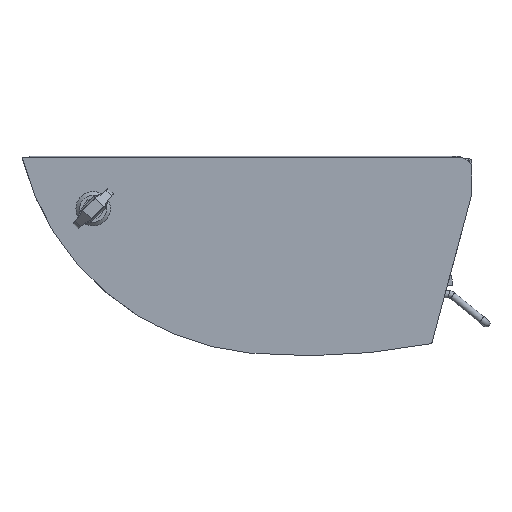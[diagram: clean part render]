
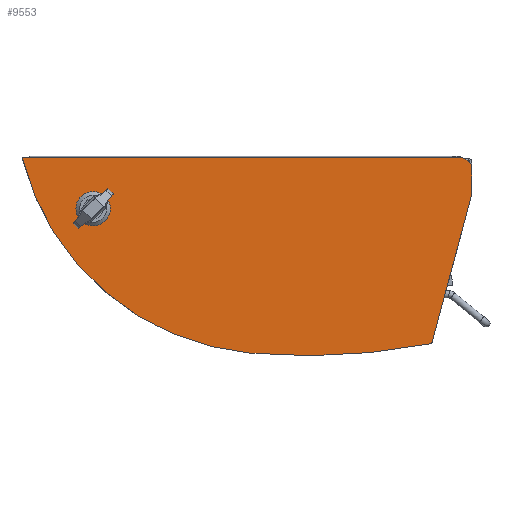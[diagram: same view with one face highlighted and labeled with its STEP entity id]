
A CAD part, left-side view. The second image highlights one B-rep face of the part: STEP entity #9553.
In plain terms, the highlighted planar face has unit normal (-1, 0, 0) as drawn and (0, 0, 1) by its records, which use the part's own axes.
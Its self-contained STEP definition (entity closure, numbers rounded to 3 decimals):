
#9030=CARTESIAN_POINT('',(-69.795,-7.509,1.5));
#9031=VERTEX_POINT('',#9030);
#9038=CARTESIAN_POINT('',(89.673,179.046,1.5));
#9039=VERTEX_POINT('',#9038);
#9040=CARTESIAN_POINT('',(140.881,-26.161,1.5));
#9041=DIRECTION('',(0.0,0.0,1.0));
#9042=DIRECTION('',(-0.242,0.97,0.0));
#9043=AXIS2_PLACEMENT_3D('',#9040,#9041,#9042);
#9044=CIRCLE('',#9043,211.5);
#9045=EDGE_CURVE('',#9039,#9031,#9044,.T.);
#9070=CARTESIAN_POINT('',(-62.182,-153.331,1.5));
#9071=VERTEX_POINT('',#9070);
#9078=CARTESIAN_POINT('',(449.673,-53.5,1.5));
#9079=DIRECTION('',(0.0,0.0,1.0));
#9080=DIRECTION('',(-0.996,0.088,0.0));
#9081=AXIS2_PLACEMENT_3D('',#9078,#9079,#9080);
#9082=CIRCLE('',#9081,521.5);
#9083=EDGE_CURVE('',#9031,#9071,#9082,.T.);
#9103=CARTESIAN_POINT('',(-60.376,-155.268,1.5));
#9104=VERTEX_POINT('',#9103);
#9111=CARTESIAN_POINT('',(-59.729,-152.853,1.5));
#9112=DIRECTION('',(0.0,0.0,1.0));
#9113=DIRECTION('',(-0.982,-0.191,0.0));
#9114=AXIS2_PLACEMENT_3D('',#9111,#9112,#9113);
#9115=CIRCLE('',#9114,2.5);
#9116=EDGE_CURVE('',#9071,#9104,#9115,.T.);
#9135=CARTESIAN_POINT('',(59.599,-187.415,1.5));
#9136=VERTEX_POINT('',#9135);
#9143=CARTESIAN_POINT('',(-60.376,-155.268,1.5));
#9144=DIRECTION('',(0.966,-0.259,0.0));
#9145=VECTOR('',#9144,124.207);
#9146=LINE('',#9143,#9145);
#9147=EDGE_CURVE('',#9104,#9136,#9146,.T.);
#9167=CARTESIAN_POINT('',(60.246,-187.5,1.5));
#9168=VERTEX_POINT('',#9167);
#9175=CARTESIAN_POINT('',(60.246,-185.,1.5));
#9176=DIRECTION('',(0.0,0.0,1.0));
#9177=DIRECTION('',(-0.259,-0.966,0.0));
#9178=AXIS2_PLACEMENT_3D('',#9175,#9176,#9177);
#9179=CIRCLE('',#9178,2.5);
#9180=EDGE_CURVE('',#9136,#9168,#9179,.T.);
#9199=CARTESIAN_POINT('',(79.673,-187.5,1.5));
#9200=VERTEX_POINT('',#9199);
#9207=CARTESIAN_POINT('',(60.246,-187.5,1.5));
#9208=DIRECTION('',(1.0,0.0,0.0));
#9209=VECTOR('',#9208,19.427);
#9210=LINE('',#9207,#9209);
#9211=EDGE_CURVE('',#9168,#9200,#9210,.T.);
#9232=CARTESIAN_POINT('',(37.873,125.572,1.5));
#9233=VERTEX_POINT('',#9232);
#9240=CARTESIAN_POINT('',(37.873,116.628,1.5));
#9241=VERTEX_POINT('',#9240);
#9242=CARTESIAN_POINT('',(37.873,116.628,1.5));
#9243=DIRECTION('',(0.0,1.0,0.0));
#9244=VECTOR('',#9243,8.944);
#9245=LINE('',#9242,#9244);
#9246=EDGE_CURVE('',#9241,#9233,#9245,.T.);
#9272=CARTESIAN_POINT('',(43.451,111.05,1.5));
#9273=VERTEX_POINT('',#9272);
#9274=CARTESIAN_POINT('',(47.923,121.1,1.5));
#9275=DIRECTION('',(0.0,0.0,-1.0));
#9276=DIRECTION('',(1.0,0.0,0.0));
#9277=AXIS2_PLACEMENT_3D('',#9274,#9275,#9276);
#9278=CIRCLE('',#9277,11.0);
#9279=EDGE_CURVE('',#9273,#9241,#9278,.T.);
#9304=CARTESIAN_POINT('',(52.395,111.05,1.5));
#9305=VERTEX_POINT('',#9304);
#9306=CARTESIAN_POINT('',(52.395,111.05,1.5));
#9307=DIRECTION('',(-1.0,0.0,0.0));
#9308=VECTOR('',#9307,8.944);
#9309=LINE('',#9306,#9308);
#9310=EDGE_CURVE('',#9305,#9273,#9309,.T.);
#9336=CARTESIAN_POINT('',(57.973,116.628,1.5));
#9337=VERTEX_POINT('',#9336);
#9338=CARTESIAN_POINT('',(47.923,121.1,1.5));
#9339=DIRECTION('',(0.0,0.0,-1.0));
#9340=DIRECTION('',(1.0,0.0,0.0));
#9341=AXIS2_PLACEMENT_3D('',#9338,#9339,#9340);
#9342=CIRCLE('',#9341,11.0);
#9343=EDGE_CURVE('',#9337,#9305,#9342,.T.);
#9368=CARTESIAN_POINT('',(57.973,125.572,1.5));
#9369=VERTEX_POINT('',#9368);
#9370=CARTESIAN_POINT('',(57.973,125.572,1.5));
#9371=DIRECTION('',(0.0,-1.0,0.0));
#9372=VECTOR('',#9371,8.944);
#9373=LINE('',#9370,#9372);
#9374=EDGE_CURVE('',#9369,#9337,#9373,.T.);
#9400=CARTESIAN_POINT('',(52.395,131.15,1.5));
#9401=VERTEX_POINT('',#9400);
#9402=CARTESIAN_POINT('',(47.923,121.1,1.5));
#9403=DIRECTION('',(0.0,0.0,-1.0));
#9404=DIRECTION('',(1.0,0.0,0.0));
#9405=AXIS2_PLACEMENT_3D('',#9402,#9403,#9404);
#9406=CIRCLE('',#9405,11.0);
#9407=EDGE_CURVE('',#9401,#9369,#9406,.T.);
#9432=CARTESIAN_POINT('',(43.451,131.15,1.5));
#9433=VERTEX_POINT('',#9432);
#9434=CARTESIAN_POINT('',(43.451,131.15,1.5));
#9435=DIRECTION('',(1.0,0.0,0.0));
#9436=VECTOR('',#9435,8.944);
#9437=LINE('',#9434,#9436);
#9438=EDGE_CURVE('',#9433,#9401,#9437,.T.);
#9462=CARTESIAN_POINT('',(47.923,121.1,1.5));
#9463=DIRECTION('',(0.0,0.0,-1.0));
#9464=DIRECTION('',(1.0,0.0,0.0));
#9465=AXIS2_PLACEMENT_3D('',#9462,#9463,#9464);
#9466=CIRCLE('',#9465,11.0);
#9467=EDGE_CURVE('',#9233,#9433,#9466,.T.);
#9478=CARTESIAN_POINT('',(89.673,-177.5,1.5));
#9479=VERTEX_POINT('',#9478);
#9480=CARTESIAN_POINT('',(79.673,-177.5,1.5));
#9481=DIRECTION('',(0.0,0.0,-1.0));
#9482=DIRECTION('',(0.0,1.0,0.0));
#9483=AXIS2_PLACEMENT_3D('',#9480,#9481,#9482);
#9484=CIRCLE('',#9483,10.0);
#9485=EDGE_CURVE('',#9479,#9200,#9484,.T.);
#9511=CARTESIAN_POINT('',(89.673,179.046,1.5));
#9512=DIRECTION('',(0.0,-1.0,0.0));
#9513=VECTOR('',#9512,356.546);
#9514=LINE('',#9511,#9513);
#9515=EDGE_CURVE('',#9039,#9479,#9514,.T.);
#9528=CARTESIAN_POINT('',(24.855,-15.073,1.5));
#9529=DIRECTION('',(0.0,0.0,1.0));
#9530=DIRECTION('',(1.0,0.0,0.0));
#9531=AXIS2_PLACEMENT_3D('',#9528,#9529,#9530);
#9532=PLANE('',#9531);
#9533=ORIENTED_EDGE('',*,*,#9485,.F.);
#9534=ORIENTED_EDGE('',*,*,#9515,.F.);
#9535=ORIENTED_EDGE('',*,*,#9045,.T.);
#9536=ORIENTED_EDGE('',*,*,#9083,.T.);
#9537=ORIENTED_EDGE('',*,*,#9116,.T.);
#9538=ORIENTED_EDGE('',*,*,#9147,.T.);
#9539=ORIENTED_EDGE('',*,*,#9180,.T.);
#9540=ORIENTED_EDGE('',*,*,#9211,.T.);
#9541=EDGE_LOOP('',(#9533,#9534,#9535,#9536,#9537,#9538,#9539,#9540));
#9542=FACE_OUTER_BOUND('',#9541,.T.);
#9543=ORIENTED_EDGE('',*,*,#9246,.T.);
#9544=ORIENTED_EDGE('',*,*,#9467,.T.);
#9545=ORIENTED_EDGE('',*,*,#9438,.T.);
#9546=ORIENTED_EDGE('',*,*,#9407,.T.);
#9547=ORIENTED_EDGE('',*,*,#9374,.T.);
#9548=ORIENTED_EDGE('',*,*,#9343,.T.);
#9549=ORIENTED_EDGE('',*,*,#9310,.T.);
#9550=ORIENTED_EDGE('',*,*,#9279,.T.);
#9551=EDGE_LOOP('',(#9543,#9544,#9545,#9546,#9547,#9548,#9549,#9550));
#9552=FACE_BOUND('',#9551,.T.);
#9553=ADVANCED_FACE('',(#9542,#9552),#9532,.T.);
